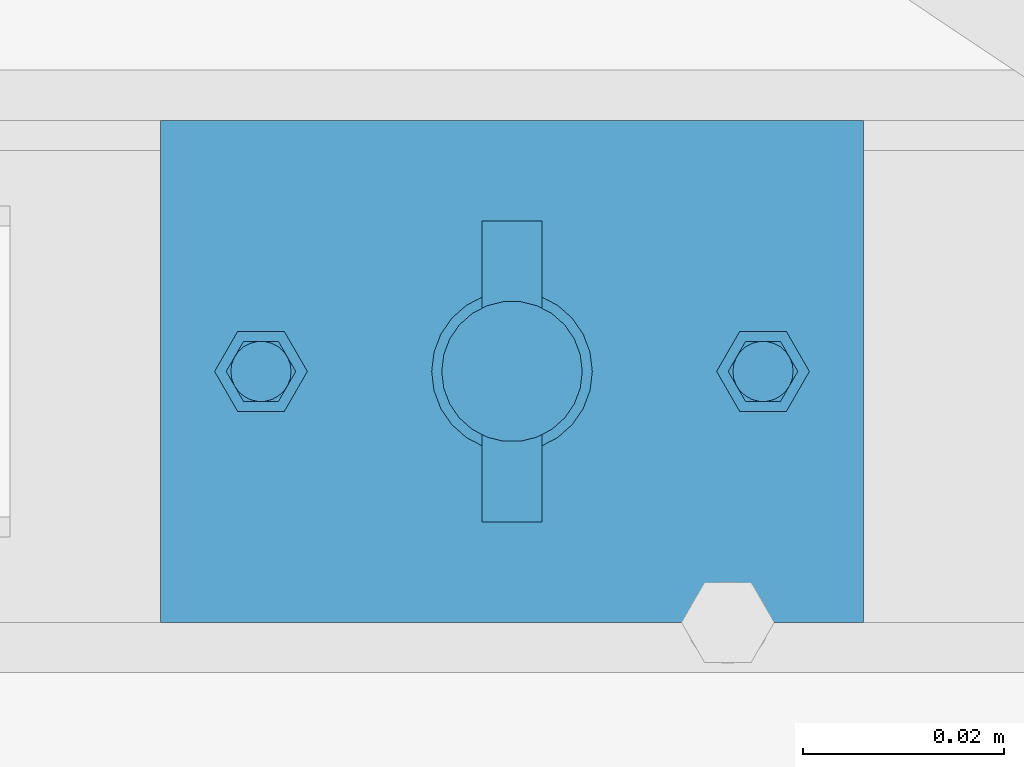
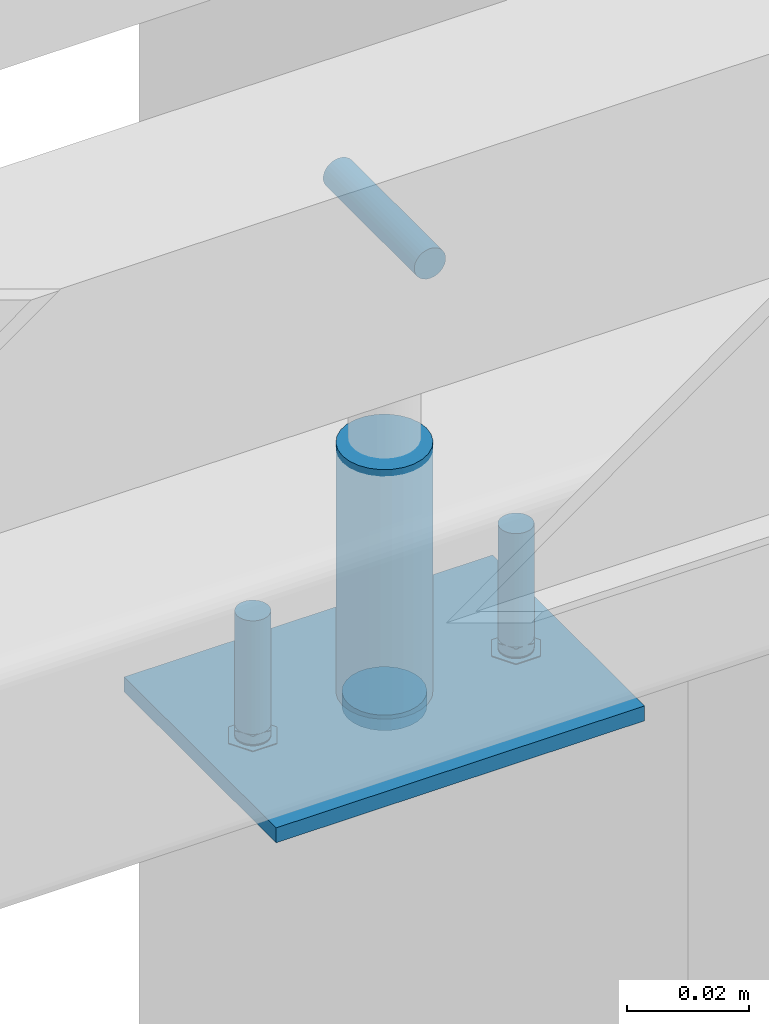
# One storey, part 62 of 91: 6 mechanical fasteners, 2 discrete accessories, 2 elements without a shape of their own.
"""IFC2X3 building model written with IfcOpenShell, lengths in millimetres."""

from ifc_helpers import new_model, si_unit, frame, origin_with_axes, origin_2d_with_axis, place, context, subcontext, project, spatial, polyline, circle, outline, extrude, source, transform, mapped, material, type_object, element, aggregate, save


model = new_model("IFC2X3")

# Units and contexts
model_context = context("Model", 3, precision=1e-05, world=origin_with_axes())
body_context = subcontext(model_context, "Body", "Model", "MODEL_VIEW")
ifc_project = project(units=[si_unit("LENGTHUNIT", "METRE", prefix="MILLI"), si_unit("AREAUNIT", "SQUARE_METRE"), si_unit("VOLUMEUNIT", "CUBIC_METRE"), si_unit("MASSUNIT", "GRAM", prefix="KILO"), si_unit("TIMEUNIT", "SECOND"), si_unit("PLANEANGLEUNIT", "RADIAN"), si_unit("SOLIDANGLEUNIT", "STERADIAN"), si_unit("THERMODYNAMICTEMPERATUREUNIT", "DEGREE_CELSIUS"), si_unit("LUMINOUSINTENSITYUNIT", "LUMEN")], contexts=[model_context])

# Site, building, storey
site_placement = place(None, origin_with_axes())
site = spatial("IfcSite", under=ifc_project, at=site_placement, Name="Undefined", CompositionType="ELEMENT")
building_placement = place(site_placement, origin_with_axes())
building = spatial("IfcBuilding", under=site, at=building_placement, Name="Undefined", CompositionType="ELEMENT")
storey_placement = place(building_placement, origin_with_axes())
storey = spatial("IfcBuildingStorey", under=building, at=storey_placement, Name="Undefined", CompositionType="ELEMENT", Elevation=0.0)

# Assembly, discrete accessory, mechanical fasteners
assembly_1_placement = place(storey_placement, origin_with_axes())
assembly_1 = element("IfcElementAssembly", 1, at=assembly_1_placement, inside=storey, Name="ROD", AssemblyPlace="NOTDEFINED", PredefinedType="RIGID_FRAME")
ifc_material_1 = material(Name="STEEL/250")
discrete_accessory_type_1 = type_object("IfcDiscreteAccessoryType", Name="PLATE")
discrete_accessory_1_placement = place(assembly_1_placement, frame((-107893.34, 84737.15, 3324.5), z_axis=(0.0, 0.0, 1.0), x_axis=(0.0, -1.0, 0.0)))
discrete_accessory_1 = element("IfcDiscreteAccessory", 2, at=discrete_accessory_1_placement, type_object=discrete_accessory_type_1, material=ifc_material_1, Name="PLATE", ObjectType="PLT3*50", context=body_context, shape_type="SweptSolid", body=[
    extrude(outline(polyline([(0.0, 0.0), (50.0, 0.0), (50.0, 70.0), (0.0, 70.0), (0.0, 0.0)])), frame((0.0, 0.0, -1.5), z_axis=(0.0, 0.0, 1.0), x_axis=(1.0, 0.0, 0.0)), (0.0, 0.0, 1.0), 3.0),
])
ifc_material_2 = material(Name="8.8S")
discrete_accessory_type_2 = type_object("IfcDiscreteAccessoryType", Name="Bolt assembly")
shared_shape_1 = source(origin_with_axes(), body_context, "Body", "SweptSolid", [
    extrude(circle(Radius=3.0, at=origin_2d_with_axis()), frame((0.0, -1.0, 0.0), z_axis=(0.0, 1.0, 0.0), x_axis=(1.0, 0.0, 0.0)), (0.0, 0.0, 1.0), 3.1),
])
mechanical_fastener_1_placement = place(assembly_1_placement, frame((-107833.34, 84712.15, 3324.0), z_axis=(0.0, 1.0, 0.0), x_axis=(-1.0, 0.0, 0.0)))
mechanical_fastener_1 = element("IfcMechanicalFastener", 3, at=mechanical_fastener_1_placement, type_object=discrete_accessory_type_2, material=ifc_material_2, Name="Bolt assembly", NominalDiameter=6.0, NominalLength=3.0, context=body_context, shape_type="MappedRepresentation", body=[
    mapped(shared_shape_1, transform((0.0, 0.0, 0.0))),
])
mechanical_fastener_2_placement = place(assembly_1_placement, frame((-107883.34, 84712.15, 3324.0), z_axis=(0.0, -1.0, 0.0), x_axis=(1.0, 0.0, 0.0)))
mechanical_fastener_2 = element("IfcMechanicalFastener", 4, at=mechanical_fastener_2_placement, type_object=discrete_accessory_type_2, material=ifc_material_2, Name="Bolt assembly", NominalDiameter=6.0, NominalLength=3.0, context=body_context, shape_type="MappedRepresentation", body=[
    mapped(shared_shape_1, transform((0.0, 0.0, 0.0))),
])
shared_shape_2 = source(origin_with_axes(), body_context, "Body", "SweptSolid", [
    extrude(circle(Radius=7.0, at=origin_2d_with_axis()), frame((0.0, -1.0, 0.0), z_axis=(0.0, 1.0, 0.0), x_axis=(1.0, 0.0, 0.0)), (0.0, 0.0, 1.0), 3.1),
])
mechanical_fastener_3_placement = place(assembly_1_placement, frame((-107858.34, 84712.15, 3324.0), z_axis=(0.0, -1.0, 0.0), x_axis=(1.0, 0.0, 0.0)))
mechanical_fastener_3 = element("IfcMechanicalFastener", 5, at=mechanical_fastener_3_placement, type_object=discrete_accessory_type_2, material=ifc_material_2, Name="Bolt assembly", NominalDiameter=12.0, NominalLength=3.0, context=body_context, shape_type="MappedRepresentation", body=[
    mapped(shared_shape_2, transform((0.0, 0.0, 0.0))),
])

# Assembly, mechanical fasteners
assembly_2_placement = place(storey_placement, origin_with_axes())
assembly_2 = element("IfcElementAssembly", 6, at=assembly_2_placement, inside=storey, Name="SLIDING DOOR", AssemblyPlace="NOTDEFINED", PredefinedType="RIGID_FRAME")
ifc_material_3 = material(Name="TEK_11TPIM")
shared_shape_3 = source(origin_with_axes(), body_context, "Body", "SweptSolid", [
    extrude(circle(Radius=3.0, at=origin_2d_with_axis()), frame((0.0, 0.0, 0.0), z_axis=(0.0, 1.0, 0.0), x_axis=(1.0, 0.0, 0.0)), (0.0, 0.0, 1.0), 2.1),
    extrude(outline(polyline([(4.61880215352, 0.0), (2.30940107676, 4.00000000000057), (-2.30940107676, 4.00000000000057), (-4.61880215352, 0.0), (-2.30940107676, -4.00000000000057), (2.30940107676, -4.00000000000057), (4.61880215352, 0.0)])), frame((0.0, -5.0, 0.0), z_axis=(0.0, 1.0, 0.0), x_axis=(1.0, 0.0, 0.0)), (0.0, 0.0, 1.0), 5.0),
    extrude(circle(Radius=3.0, at=origin_2d_with_axis()), frame((0.0, 0.0, 0.0), z_axis=(0.0, 1.0, 0.0), x_axis=(1.0, 0.0, 0.0)), (0.0, 0.0, 1.0), 25.0),
    extrude(circle(Radius=3.0, at=origin_2d_with_axis()), frame((0.0, 2.00000000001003, 0.0), z_axis=(0.0, 1.0, 0.0), x_axis=(1.0, 0.0, 0.0)), (0.0, 0.0, 1.0), 0.1),
    extrude(outline(polyline([(3.46410161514, 0.0), (1.73205080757, 3.00000000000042), (-1.73205080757, 3.00000000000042), (-3.46410161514, 0.0), (-1.73205080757, -3.00000000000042), (1.73205080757, -3.00000000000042), (3.46410161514, 0.0)])), frame((0.0, 2.10000000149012, 0.0), z_axis=(0.0, 1.0, 0.0), x_axis=(1.0, 0.0, 0.0)), (0.0, 0.0, 1.0), 0.1),
])
mechanical_fastener_4_placement = place(assembly_2_placement, frame((-107833.34, 84712.15, 3326.0), z_axis=(0.0, 1.0, 0.0), x_axis=(-1.0, 0.0, 0.0)))
mechanical_fastener_4 = element("IfcMechanicalFastener", 7, at=mechanical_fastener_4_placement, type_object=discrete_accessory_type_2, material=ifc_material_3, Name="Bolt assembly", NominalDiameter=6.0, NominalLength=25.0, context=body_context, shape_type="MappedRepresentation", body=[
    mapped(shared_shape_3, transform((0.0, 0.0, 0.0))),
])
mechanical_fastener_5_placement = place(assembly_2_placement, frame((-107883.34, 84712.15, 3326.0), z_axis=(0.0, -1.0, 0.0), x_axis=(1.0, 0.0, 0.0)))
mechanical_fastener_5 = element("IfcMechanicalFastener", 8, at=mechanical_fastener_5_placement, type_object=discrete_accessory_type_2, material=ifc_material_3, Name="Bolt assembly", NominalDiameter=6.0, NominalLength=25.0, context=body_context, shape_type="MappedRepresentation", body=[
    mapped(shared_shape_3, transform((0.0, 0.0, 0.0))),
])
shared_shape_4 = source(origin_with_axes(), body_context, "Body", "SweptSolid", [
    extrude(circle(Radius=8.0, at=origin_2d_with_axis()), frame((0.0, 0.0, 0.0), z_axis=(0.0, 1.0, 0.0), x_axis=(1.0, 0.0, 0.0)), (0.0, 0.0, 1.0), 50.1),
])
mechanical_fastener_6_placement = place(assembly_2_placement, frame((-107858.34, 84712.15, 3326.0), z_axis=(0.0, 1.0, 0.0), x_axis=(-1.0, 0.0, 0.0)))
mechanical_fastener_6 = element("IfcMechanicalFastener", 9, at=mechanical_fastener_6_placement, type_object=discrete_accessory_type_2, material=ifc_material_2, Name="Bolt assembly", NominalDiameter=10.0, NominalLength=50.0, context=body_context, shape_type="MappedRepresentation", body=[
    mapped(shared_shape_4, transform((0.0, 0.0, 0.0))),
])
aggregate(assembly_2, [mechanical_fastener_4, mechanical_fastener_5, mechanical_fastener_6])

# Discrete accessory
discrete_accessory_type_3 = type_object("IfcDiscreteAccessoryType", Name="SPRING PIN")
discrete_accessory_2_placement = place(assembly_1_placement, frame((-107858.34, 84697.15, 3421.0), z_axis=(1.0, 0.0, 0.0), x_axis=(0.0, 1.0, 0.0)))
discrete_accessory_2 = element("IfcDiscreteAccessory", 10, at=discrete_accessory_2_placement, type_object=discrete_accessory_type_3, material=ifc_material_1, Name="SPRING PIN", ObjectType="D6", context=body_context, shape_type="SweptSolid", body=[
    extrude(circle(Radius=3.0, at=origin_2d_with_axis()), frame((30.0, 0.0, 0.0), z_axis=(-1.0, 0.0, 0.0), x_axis=(0.0, -1.0, 0.0)), (0.0, 0.0, 1.0), 30.0),
])

aggregate(assembly_1, [mechanical_fastener_1, mechanical_fastener_2, mechanical_fastener_3, discrete_accessory_2, discrete_accessory_1])

save(model, "model.ifc")
